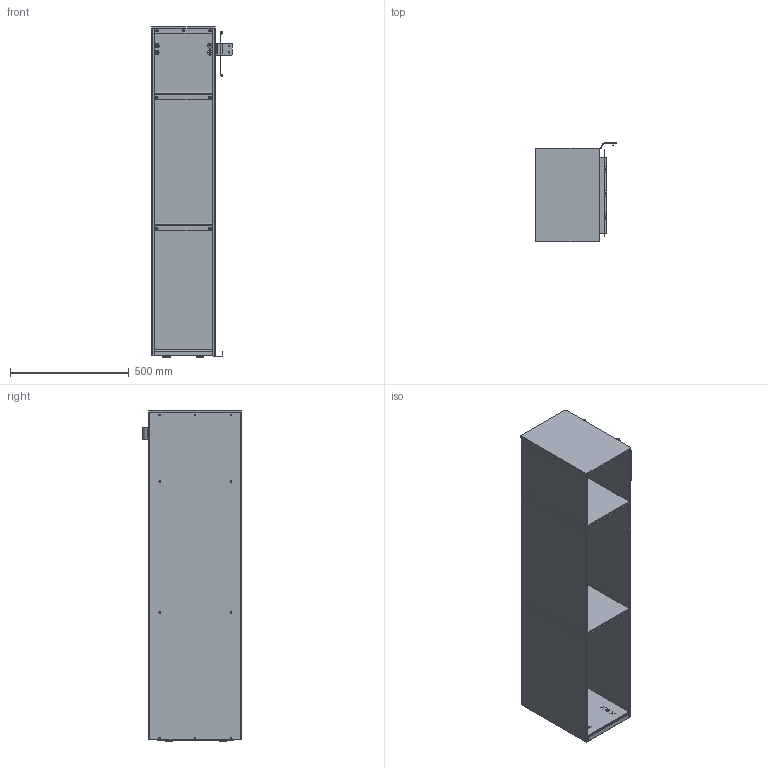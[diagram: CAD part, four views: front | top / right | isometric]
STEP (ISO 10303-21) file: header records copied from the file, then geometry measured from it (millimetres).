
FILE_DESCRIPTION(/* description */ ('Unknown'),/* implementation_level */ '2;1');
FILE_NAME(/* name */ 'Vedfack C410 2026-05-26',/* time_stamp */ '2026-05-26T09:55:46+02:00',/* author */ ('Unknown'),/* organization */ ('Unknown'),/* preprocessor_version */ 'ST-DEVELOPER v20',/* originating_system */ 'Solid Edge',/* authorisation */ 'Unknown');
FILE_SCHEMA (('AUTOMOTIVE_DESIGN {1 0 10303 214 3 1 1}'));
Length unit declared in the file: millimetre
Products named in the file (38): DSN1135244; 803747 Justerbar fot; 803263 Bult; 803748 Pinnskruv; 803264 Plasbricka; 803261 Bricka; 803264 Plasbricka_oa_0; 416182 Kupolmutter M5 Svart; 416149 Svartoxiderad bricka; DSN1135247; 416179 Presskruv M5x10; DSN1131299; DSN1135248; DSN1131301; DSN1143567; DSN1143564; 016521 Mutter M6M M5; DSN1135300; DSN1135301; 416123 Presskruv CH M5x15; DSN1143619; DSN1135249; DSN1131300; DSN1135246; DSN1131298; DSN1135261; DSN1102387; DSN1135246_718_1 175_Protrusion 1_oa_1; DSN1135245; 416062 Blindnitmutter EBPH M8; 798689 Fotplatta; DSN1131297; DSN1135245_2 684_3 072_Fillet 1_oa_2; 003613 Täckpropp Svart; S1LARYNjocbu2A_016807 Skruv M5x9FT85T Torx25 FZB; DSN1019091; 016002 Nitbricka Ø5xØ22x1; 803343 Plastplugg rund svart
Assembly tree (138 placements, depth 3):
  DSN1135244
    803747 Justerbar fot  x4
      803263 Bult
      803748 Pinnskruv
      803264 Plasbricka
      803261 Bricka
      803264 Plasbricka_oa_0
    416182 Kupolmutter M5 Svart  x23
    416149 Svartoxiderad bricka  x30
    DSN1135247  x2
      416179 Presskruv M5x10
      DSN1131299
    DSN1135248  x2
      DSN1131301
    DSN1143567
      DSN1143564
    016521 Mutter M6M M5  x9
    DSN1135300
      016521 Mutter M6M M5  x2
      DSN1135301
      416123 Presskruv CH M5x15  x2
    DSN1143619
    DSN1135249
      416179 Presskruv M5x10  x10
      DSN1131300
    DSN1135246
      DSN1131298
      DSN1135261
      DSN1102387  x2
      DSN1135246_718_1 175_Protrusion 1_oa_1
    DSN1135245
      416062 Blindnitmutter EBPH M8  x4
      798689 Fotplatta  x4
      DSN1131297
      DSN1135245_2 684_3 072_Fillet 1_oa_2
    003613 Täckpropp Svart  x4
    S1LARYNjocbu2A_016807 Skruv M5x9FT85T Torx25 FZB  x3
    DSN1019091  x2
    016002 Nitbricka Ø5xØ22x1  x2
    803343 Plastplugg rund svart  x2
Bounding box: 339.33 x 419 x 1393 mm (x, y, z)
Volume: 4671422.1 mm3; surface area: 4279882.6 mm2
Topology: 174 solids, 174 shells, 4762 faces, 12425 edges, 8147 vertices
Faces by surface type: plane 2661, cylinder 1571, cone 408, torus 96, sphere 26
Full cylindrical faces by diameter (mm): 3.5 x4, 3.6 x4, 3.614 x11, 3.7 x4, 3.8 x4, 4.134 x46, 4.2 x6, 5 x71, 5.18 x64, 5.5 x1, 6 x13, 6.5 x49, 6.8 x4, 7.125 x23, 7.2 x36, 8 x8, 8.4 x2, 8.5 x4, 9.5 x4, 10 x3, 10.8 x4, 10.95 x4, 14.5 x4, 16.2 x4, 16.75 x4, 18 x2, 22 x2, 30 x8
Entity records: 28065 total; most frequent: DIRECTION 4780, CARTESIAN_POINT 4639, ORIENTED_EDGE 4040, EDGE_CURVE 2020, AXIS2_PLACEMENT_3D 1783, VERTEX_POINT 1426, FACE_BOUND 1252, EDGE_LOOP 1251
